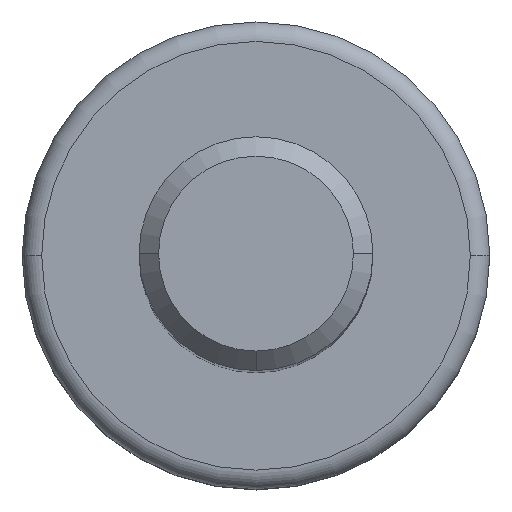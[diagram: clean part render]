
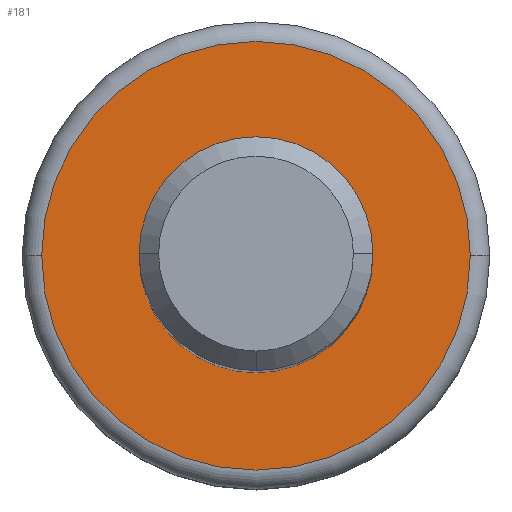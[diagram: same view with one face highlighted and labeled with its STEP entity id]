
A CAD part, top view. The second image highlights one B-rep face of the part: STEP entity #181.
In plain terms, the highlighted planar face has unit normal (0, 0, 1).
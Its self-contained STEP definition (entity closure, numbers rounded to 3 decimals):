
#7 = CARTESIAN_POINT ( 'NONE',  ( -1.5, 0., -16. ) ) ;
#25 = CARTESIAN_POINT ( 'NONE',  ( 0., 0., -16. ) ) ;
#50 = FACE_BOUND ( 'NONE', #182, .T. ) ;
#80 = EDGE_LOOP ( 'NONE', ( #463, #168 ) ) ;
#114 = VERTEX_POINT ( 'NONE', #7 ) ;
#130 = ORIENTED_EDGE ( 'NONE', *, *, #412, .T. ) ;
#139 = CARTESIAN_POINT ( 'NONE',  ( 0., 0., -16. ) ) ;
#157 = DIRECTION ( 'NONE',  ( 0., 0., 1. ) ) ;
#168 = ORIENTED_EDGE ( 'NONE', *, *, #601, .F. ) ;
#181 = ADVANCED_FACE ( 'NONE', ( #50, #358 ), #462, .T. ) ;
#182 = EDGE_LOOP ( 'NONE', ( #426, #130 ) ) ;
#190 = DIRECTION ( 'NONE',  ( 1., 0., 0. ) ) ;
#195 = CIRCLE ( 'NONE', #229, 1.5 ) ;
#200 = CARTESIAN_POINT ( 'NONE',  ( 0., 0., -16. ) ) ;
#206 = VERTEX_POINT ( 'NONE', #555 ) ;
#219 = AXIS2_PLACEMENT_3D ( 'NONE', #25, #618, #574 ) ;
#221 = DIRECTION ( 'NONE',  ( 1., 0., 0. ) ) ;
#229 = AXIS2_PLACEMENT_3D ( 'NONE', #528, #615, #221 ) ;
#248 = CIRCLE ( 'NONE', #571, 2.75 ) ;
#250 = DIRECTION ( 'NONE',  ( 1., 0., 0. ) ) ;
#254 = EDGE_CURVE ( 'NONE', #444, #114, #195, .T. ) ;
#326 = EDGE_CURVE ( 'NONE', #404, #206, #501, .T. ) ;
#330 = CARTESIAN_POINT ( 'NONE',  ( -2.75, 0., -16. ) ) ;
#333 = CIRCLE ( 'NONE', #403, 1.5 ) ;
#346 = DIRECTION ( 'NONE',  ( 0., 0., -1. ) ) ;
#358 = FACE_OUTER_BOUND ( 'NONE', #80, .T. ) ;
#403 = AXIS2_PLACEMENT_3D ( 'NONE', #139, #579, #190 ) ;
#404 = VERTEX_POINT ( 'NONE', #330 ) ;
#405 = DIRECTION ( 'NONE',  ( 1., 0., 0. ) ) ;
#412 = EDGE_CURVE ( 'NONE', #444, #114, #333, .T. ) ;
#426 = ORIENTED_EDGE ( 'NONE', *, *, #254, .F. ) ;
#444 = VERTEX_POINT ( 'NONE', #586 ) ;
#462 = PLANE ( 'NONE',  #480 ) ;
#463 = ORIENTED_EDGE ( 'NONE', *, *, #326, .F. ) ;
#480 = AXIS2_PLACEMENT_3D ( 'NONE', #200, #157, #250 ) ;
#501 = CIRCLE ( 'NONE', #219, 2.75 ) ;
#510 = CARTESIAN_POINT ( 'NONE',  ( 0., 0., -16. ) ) ;
#528 = CARTESIAN_POINT ( 'NONE',  ( 0., 0., -16. ) ) ;
#555 = CARTESIAN_POINT ( 'NONE',  ( 2.75, 0., -16. ) ) ;
#571 = AXIS2_PLACEMENT_3D ( 'NONE', #510, #346, #405 ) ;
#574 = DIRECTION ( 'NONE',  ( -1., 0., 0. ) ) ;
#579 = DIRECTION ( 'NONE',  ( 0., 0., -1. ) ) ;
#586 = CARTESIAN_POINT ( 'NONE',  ( 1.5, 0., -16. ) ) ;
#601 = EDGE_CURVE ( 'NONE', #206, #404, #248, .T. ) ;
#615 = DIRECTION ( 'NONE',  ( 0., 0., 1. ) ) ;
#618 = DIRECTION ( 'NONE',  ( 0., 0., -1. ) ) ;
